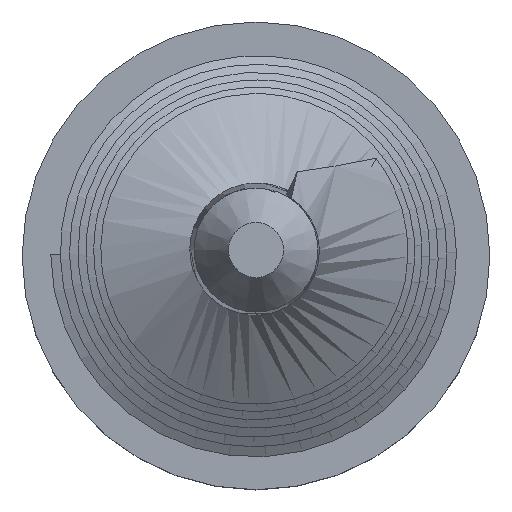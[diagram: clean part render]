
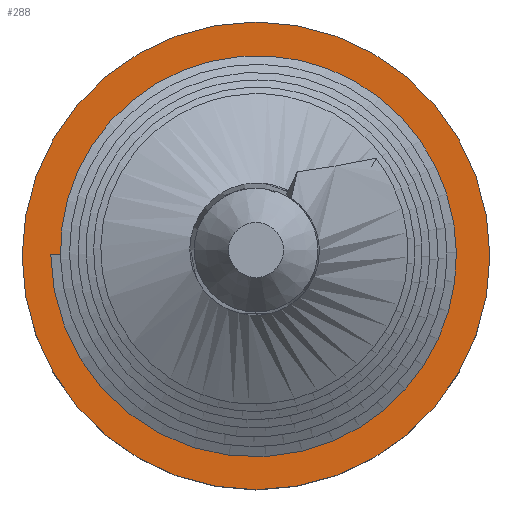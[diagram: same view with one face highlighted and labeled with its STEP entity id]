
A CAD part, top view. The second image highlights one B-rep face of the part: STEP entity #288.
In plain terms, the highlighted planar face has unit normal (0, 0, 1).
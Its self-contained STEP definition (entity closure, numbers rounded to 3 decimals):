
#18=PLANE('',#326);
#98=ORIENTED_EDGE('',*,*,#171,.F.);
#99=ORIENTED_EDGE('',*,*,#170,.T.);
#170=EDGE_CURVE('',#207,#207,#223,.T.);
#171=EDGE_CURVE('',#208,#208,#224,.T.);
#207=VERTEX_POINT('',#596);
#208=VERTEX_POINT('',#599);
#223=CIRCLE('',#325,8.5);
#224=CIRCLE('',#327,5.5);
#234=EDGE_LOOP('',(#98));
#235=EDGE_LOOP('',(#99));
#262=FACE_BOUND('',#234,.T.);
#263=FACE_BOUND('',#235,.T.);
#288=ADVANCED_FACE('',(#262,#263),#18,.F.);
#325=AXIS2_PLACEMENT_3D('',#595,#366,#367);
#326=AXIS2_PLACEMENT_3D('',#597,#368,#369);
#327=AXIS2_PLACEMENT_3D('',#598,#370,#371);
#366=DIRECTION('',(0.,0.,1.));
#367=DIRECTION('',(1.,0.,0.));
#368=DIRECTION('',(0.,0.,-1.));
#369=DIRECTION('',(-1.,0.,0.));
#370=DIRECTION('',(0.,0.,1.));
#371=DIRECTION('',(1.,0.,0.));
#595=CARTESIAN_POINT('',(0.,0.,5.));
#596=CARTESIAN_POINT('',(8.5,0.,5.));
#597=CARTESIAN_POINT('',(8.5,0.,5.));
#598=CARTESIAN_POINT('',(0.,0.,5.));
#599=CARTESIAN_POINT('',(5.5,0.,5.));
